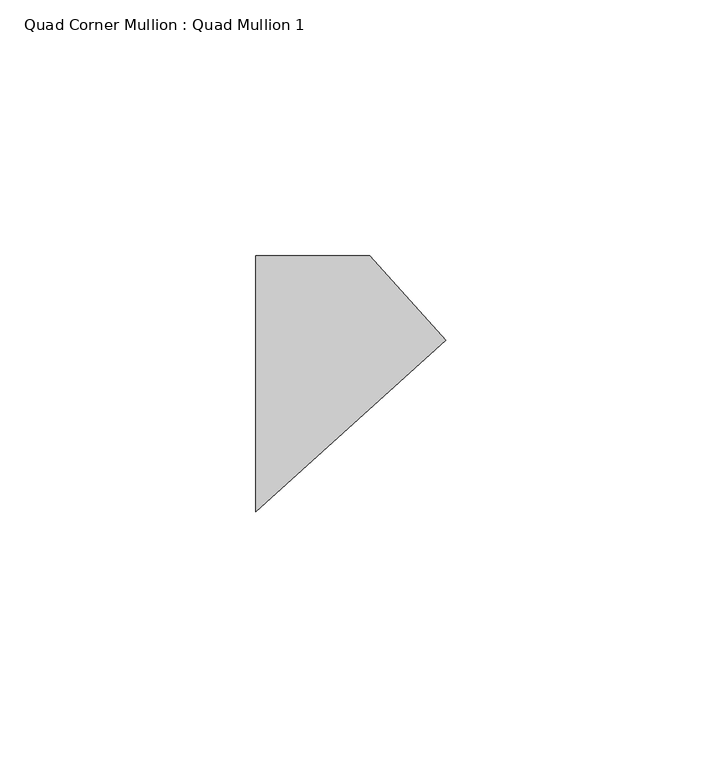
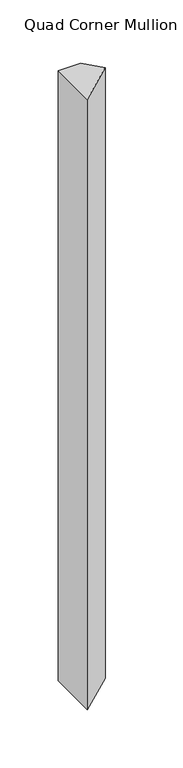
"""IFC4 building model written with IfcOpenShell, lengths in millimetres: member geometry, Quad Corner Mullion : Quad Mullion 1."""

from ifc_helpers import new_model, si_unit, frame, origin, place, context, project, spatial, polyline, outline, extrude, source, transform, mapped, element, save


def quad_corner_mullion_quad_mullion_1_ea56a433(model_context):
    return source(origin(), model_context, "Body", "SweptSolid", [
        extrude(outline(polyline([(26.0265241, 8.4565303), (-11.1307171, -25.0), (-11.1307171, 25.0), (11.1307171, 25.0), (26.0265241, 8.4565303)])), frame((0.0, 0.0, -640.0), z_axis=(0.0, 0.0, 1.0), x_axis=(1.0, 0.0, 0.0)), (0.0, 0.0, 1.0), 640.0),
    ])


if __name__ == "__main__":
    model = new_model("IFC4")
    model_context = context("Model", 3, world=origin())
    ifc_project = project(units=[si_unit("LENGTHUNIT", "METRE", prefix="MILLI")], contexts=[model_context])
    site = spatial("IfcSite", under=ifc_project)
    building = spatial("IfcBuilding", under=site)
    placement = place(None, origin())
    quad_corner_mullion_quad_mullion_1_shape = quad_corner_mullion_quad_mullion_1_ea56a433(model_context)
    element("IfcMember", 1, ObjectType="Quad Corner Mullion : Quad Mullion 1", at=placement, inside=building, context=model_context, shape_type="MappedRepresentation", body=[
        mapped(quad_corner_mullion_quad_mullion_1_shape, transform((0.0, 0.0, 0.0), x_axis=(1.0, 0.0, 0.0), y_axis=(0.0, 1.0, 0.0), z_axis=(0.0, 0.0, 1.0))),
    ])
    save(model, "model.ifc")
